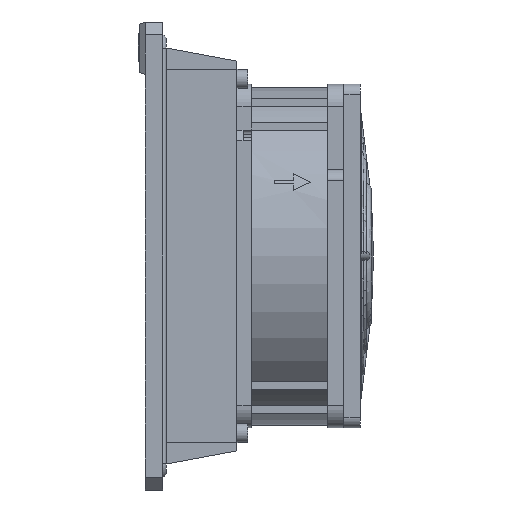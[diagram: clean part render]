
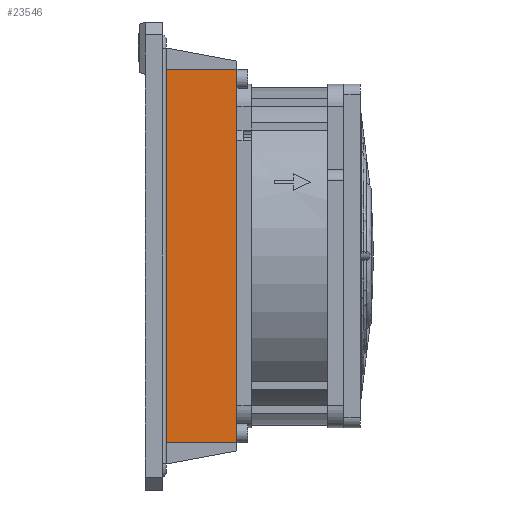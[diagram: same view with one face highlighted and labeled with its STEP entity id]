
A CAD part, left-side view. The second image highlights one B-rep face of the part: STEP entity #23546.
In plain terms, the highlighted planar face has unit normal (-1, 0, 0).
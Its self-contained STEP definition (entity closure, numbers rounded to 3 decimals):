
#116 = CARTESIAN_POINT ( 'NONE',  ( -45., 168.242, 45. ) ) ;
#4813 = DIRECTION ( 'NONE',  ( 0., -1., 0. ) ) ;
#5681 = CARTESIAN_POINT ( 'NONE',  ( -45., 0., 45. ) ) ;
#5761 = DIRECTION ( 'NONE',  ( -1., 0., 0. ) ) ;
#7472 = LINE ( 'NONE', #5681, #48630 ) ;
#9242 = DIRECTION ( 'NONE',  ( 0., 0., -1. ) ) ;
#10298 = ORIENTED_EDGE ( 'NONE', *, *, #40905, .F. ) ;
#10667 = VECTOR ( 'NONE', #50260, 1000. ) ;
#14016 = LINE ( 'NONE', #23270, #10667 ) ;
#16616 = EDGE_CURVE ( 'NONE', #20712, #26916, #30570, .T. ) ;
#19735 = VERTEX_POINT ( 'NONE', #50782 ) ;
#20712 = VERTEX_POINT ( 'NONE', #41470 ) ;
#23270 = CARTESIAN_POINT ( 'NONE',  ( -45., 34.48, 43.5 ) ) ;
#23546 = ADVANCED_FACE ( 'NONE', ( #56706 ), #43036, .T. ) ;
#26781 = VECTOR ( 'NONE', #4813, 1000. ) ;
#26916 = VERTEX_POINT ( 'NONE', #41126 ) ;
#30570 = LINE ( 'NONE', #68184, #57478 ) ;
#36688 = CARTESIAN_POINT ( 'NONE',  ( -45., 34.48, -43.5 ) ) ;
#40015 = ORIENTED_EDGE ( 'NONE', *, *, #52788, .F. ) ;
#40453 = CARTESIAN_POINT ( 'NONE',  ( -45., 0., 43.5 ) ) ;
#40905 = EDGE_CURVE ( 'NONE', #20712, #61987, #14016, .T. ) ;
#41018 = LINE ( 'NONE', #36688, #26781 ) ;
#41126 = CARTESIAN_POINT ( 'NONE',  ( -45., 17.75, -43.5 ) ) ;
#41470 = CARTESIAN_POINT ( 'NONE',  ( -45., 17.75, 43.5 ) ) ;
#43036 = PLANE ( 'NONE',  #52594 ) ;
#43188 = DIRECTION ( 'NONE',  ( 0., 0., -1. ) ) ;
#43282 = DIRECTION ( 'NONE',  ( 0., 0., 1. ) ) ;
#48057 = EDGE_LOOP ( 'NONE', ( #53276, #40015, #10298, #50271 ) ) ;
#48630 = VECTOR ( 'NONE', #43188, 1000. ) ;
#50260 = DIRECTION ( 'NONE',  ( 0., -1., 0. ) ) ;
#50271 = ORIENTED_EDGE ( 'NONE', *, *, #16616, .T. ) ;
#50782 = CARTESIAN_POINT ( 'NONE',  ( -45., 0., -43.5 ) ) ;
#52594 = AXIS2_PLACEMENT_3D ( 'NONE', #116, #5761, #43282 ) ;
#52788 = EDGE_CURVE ( 'NONE', #61987, #19735, #7472, .T. ) ;
#53276 = ORIENTED_EDGE ( 'NONE', *, *, #59760, .T. ) ;
#56706 = FACE_OUTER_BOUND ( 'NONE', #48057, .T. ) ;
#57478 = VECTOR ( 'NONE', #9242, 1000. ) ;
#59760 = EDGE_CURVE ( 'NONE', #26916, #19735, #41018, .T. ) ;
#61987 = VERTEX_POINT ( 'NONE', #40453 ) ;
#68184 = CARTESIAN_POINT ( 'NONE',  ( -45., 17.75, 45. ) ) ;
